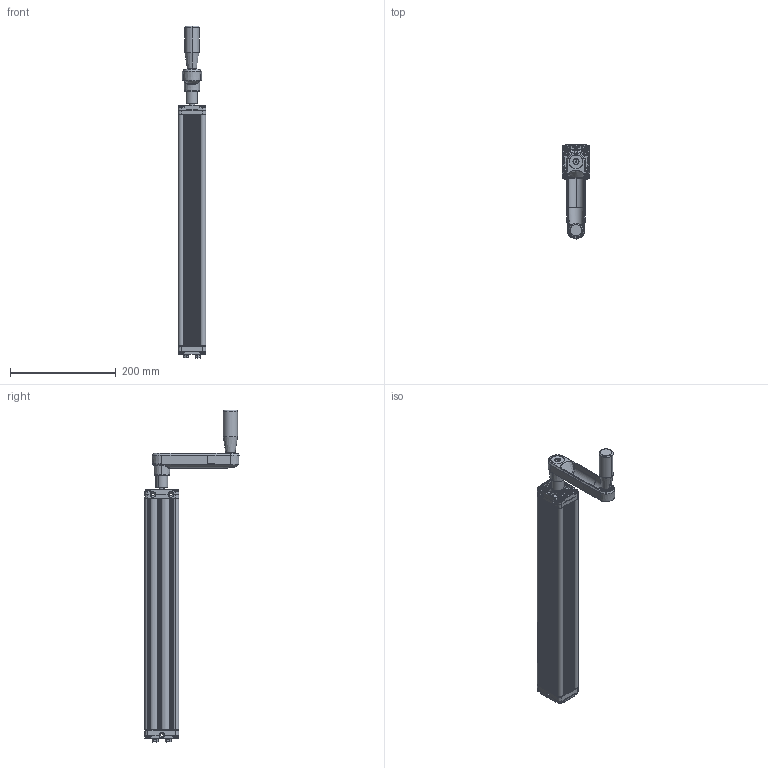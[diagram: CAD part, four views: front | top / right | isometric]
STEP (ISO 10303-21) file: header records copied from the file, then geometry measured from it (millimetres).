
FILE_DESCRIPTION (( 'STEP AP203' ), '1' );
FILE_NAME ('QXY18 Crank.STEP', '2014-01-22T20:32:58', ( '' ), ( '' ), 'SwSTEP 2.0', 'SolidWorks 2013', '' );
FILE_SCHEMA (( 'CONFIG_CONTROL_DESIGN' ));
Length unit declared in the file: millimetre
Products named in the file (1): QXY18 Crank
Bounding box: 52 x 178.32 x 628.84 mm (x, y, z)
Volume: 503499 mm3; surface area: 328792 mm2
Topology: 31 solids, 31 shells, 3408 faces, 8444 edges, 5143 vertices
Faces by surface type: cylinder 1333, plane 764, cone 476, torus 473, bspline 331, sphere 31
Entity records: 118174 total; most frequent: CARTESIAN_POINT 39462, ORIENTED_EDGE 16782, DIRECTION 16634, EDGE_CURVE 8391, AXIS2_PLACEMENT_3D 6761, VERTEX_POINT 5137, CIRCLE 3683, EDGE_LOOP 3558
